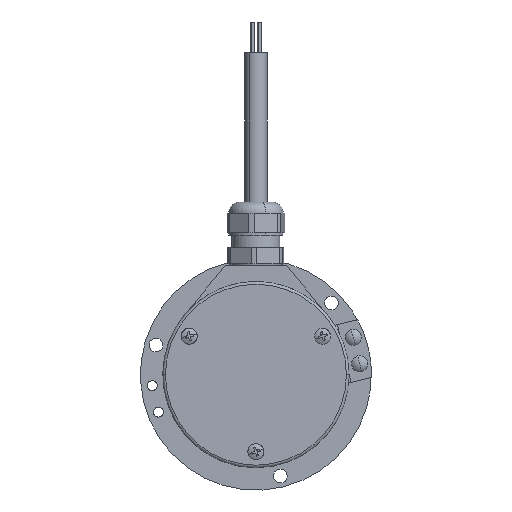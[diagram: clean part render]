
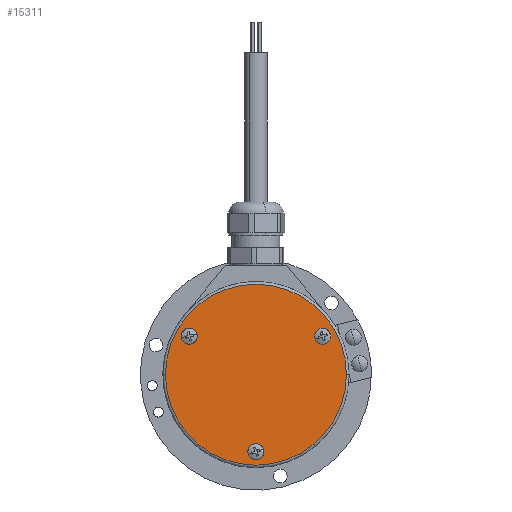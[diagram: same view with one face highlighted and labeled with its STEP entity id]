
A CAD part, left-side view. The second image highlights one B-rep face of the part: STEP entity #15311.
In plain terms, the highlighted planar face has unit normal (-1, 0, 0).
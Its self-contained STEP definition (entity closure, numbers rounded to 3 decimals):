
#8754 = AXIS2_PLACEMENT_3D ( 'NONE', #8796, #8795, #8794 ) ;
#8755 = PLANE ( 'NONE',  #8754 ) ;
#8791 = CARTESIAN_POINT ( 'NONE',  ( -4., 18.285, 12. ) ) ;
#8794 = DIRECTION ( 'NONE',  ( 0., -1., 0. ) ) ;
#8795 = DIRECTION ( 'NONE',  ( 1., 0., 0. ) ) ;
#8796 = CARTESIAN_POINT ( 'NONE',  ( -4., 0., 0. ) ) ;
#8797 = DIRECTION ( 'NONE',  ( 0., 1., 0. ) ) ;
#8798 = DIRECTION ( 'NONE',  ( -1., 0., 0. ) ) ;
#8799 = CARTESIAN_POINT ( 'NONE',  ( -4., -20.785, 12. ) ) ;
#8800 = AXIS2_PLACEMENT_3D ( 'NONE', #8799, #8798, #8797 ) ;
#8808 = CIRCLE ( 'NONE', #8800, 2.5 ) ;
#8927 = CARTESIAN_POINT ( 'NONE',  ( -4., -18.285, 12. ) ) ;
#8929 = CARTESIAN_POINT ( 'NONE',  ( -4., -23.285, 12. ) ) ;
#8945 = DIRECTION ( 'NONE',  ( -1., 0., 0. ) ) ;
#8946 = CARTESIAN_POINT ( 'NONE',  ( -4., -20.785, 12. ) ) ;
#8947 = AXIS2_PLACEMENT_3D ( 'NONE', #8946, #8945, #8953 ) ;
#8948 = CIRCLE ( 'NONE', #8947, 2.5 ) ;
#8953 = DIRECTION ( 'NONE',  ( 0., 1., 0. ) ) ;
#9087 = AXIS2_PLACEMENT_3D ( 'NONE', #9091, #9092, #9088 ) ;
#9088 = DIRECTION ( 'NONE',  ( 0., -1., 0. ) ) ;
#9089 = CIRCLE ( 'NONE', #9087, 28.2 ) ;
#9090 = CARTESIAN_POINT ( 'NONE',  ( -4., 28.2, 0. ) ) ;
#9091 = CARTESIAN_POINT ( 'NONE',  ( -4., 0., 0. ) ) ;
#9092 = DIRECTION ( 'NONE',  ( -1., 0., 0. ) ) ;
#9093 = CARTESIAN_POINT ( 'NONE',  ( -4., -28.2, 0. ) ) ;
#9155 = FACE_OUTER_BOUND ( 'NONE', #15466, .T. ) ;
#9156 = FACE_BOUND ( 'NONE', #15473, .T. ) ;
#9157 = FACE_BOUND ( 'NONE', #15312, .T. ) ;
#9160 = FACE_BOUND ( 'NONE', #15545, .T. ) ;
#9266 = CIRCLE ( 'NONE', #9282, 2.5 ) ;
#9268 = CARTESIAN_POINT ( 'NONE',  ( -4., 0., -24. ) ) ;
#9272 = CARTESIAN_POINT ( 'NONE',  ( -4., -2.5, -24. ) ) ;
#9273 = CARTESIAN_POINT ( 'NONE',  ( -4., 2.5, -24. ) ) ;
#9274 = DIRECTION ( 'NONE',  ( 0., 1., 0. ) ) ;
#9282 = AXIS2_PLACEMENT_3D ( 'NONE', #9268, #9285, #9274 ) ;
#9285 = DIRECTION ( 'NONE',  ( -1., 0., 0. ) ) ;
#15124 = VERTEX_POINT ( 'NONE', #8791 ) ;
#15126 = EDGE_CURVE ( 'NONE', #15197, #15191, #8808, .T. ) ;
#15191 = VERTEX_POINT ( 'NONE', #8929 ) ;
#15196 = EDGE_CURVE ( 'NONE', #15191, #15197, #8948, .T. ) ;
#15197 = VERTEX_POINT ( 'NONE', #8927 ) ;
#15274 = EDGE_CURVE ( 'NONE', #15275, #15276, #9089, .T. ) ;
#15275 = VERTEX_POINT ( 'NONE', #9090 ) ;
#15276 = VERTEX_POINT ( 'NONE', #9093 ) ;
#15311 = ADVANCED_FACE ( 'NONE', ( #9157, #9160, #9156, #9155 ), #8755, .F. ) ;
#15312 = EDGE_LOOP ( 'NONE', ( #15313, #15469 ) ) ;
#15313 = ORIENTED_EDGE ( 'NONE', *, *, #15126, .F. ) ;
#15382 = VERTEX_POINT ( 'NONE', #9272 ) ;
#15384 = EDGE_CURVE ( 'NONE', #15382, #15385, #9266, .T. ) ;
#15385 = VERTEX_POINT ( 'NONE', #9273 ) ;
#15453 = ORIENTED_EDGE ( 'NONE', *, *, #15274, .T. ) ;
#15464 = EDGE_CURVE ( 'NONE', #15385, #15382, #17641, .T. ) ;
#15465 = ORIENTED_EDGE ( 'NONE', *, *, #15384, .F. ) ;
#15466 = EDGE_LOOP ( 'NONE', ( #15467, #15453 ) ) ;
#15467 = ORIENTED_EDGE ( 'NONE', *, *, #15468, .T. ) ;
#15468 = EDGE_CURVE ( 'NONE', #15276, #15275, #17650, .T. ) ;
#15469 = ORIENTED_EDGE ( 'NONE', *, *, #15196, .F. ) ;
#15470 = ORIENTED_EDGE ( 'NONE', *, *, #15471, .F. ) ;
#15471 = EDGE_CURVE ( 'NONE', #15526, #15124, #17690, .T. ) ;
#15472 = ORIENTED_EDGE ( 'NONE', *, *, #15525, .F. ) ;
#15473 = EDGE_LOOP ( 'NONE', ( #15474, #15465 ) ) ;
#15474 = ORIENTED_EDGE ( 'NONE', *, *, #15464, .F. ) ;
#15525 = EDGE_CURVE ( 'NONE', #15124, #15526, #17795, .T. ) ;
#15526 = VERTEX_POINT ( 'NONE', #17797 ) ;
#15545 = EDGE_LOOP ( 'NONE', ( #15470, #15472 ) ) ;
#17640 = CARTESIAN_POINT ( 'NONE',  ( -4., 0., -24. ) ) ;
#17641 = CIRCLE ( 'NONE', #17666, 2.5 ) ;
#17646 = DIRECTION ( 'NONE',  ( 0., -1., 0. ) ) ;
#17647 = DIRECTION ( 'NONE',  ( -1., 0., 0. ) ) ;
#17648 = CARTESIAN_POINT ( 'NONE',  ( -4., 0., 0. ) ) ;
#17649 = AXIS2_PLACEMENT_3D ( 'NONE', #17648, #17647, #17646 ) ;
#17650 = CIRCLE ( 'NONE', #17649, 28.2 ) ;
#17664 = DIRECTION ( 'NONE',  ( 0., 1., 0. ) ) ;
#17665 = DIRECTION ( 'NONE',  ( -1., 0., 0. ) ) ;
#17666 = AXIS2_PLACEMENT_3D ( 'NONE', #17640, #17665, #17664 ) ;
#17690 = CIRCLE ( 'NONE', #17700, 2.5 ) ;
#17691 = DIRECTION ( 'NONE',  ( -1., 0., 0. ) ) ;
#17694 = DIRECTION ( 'NONE',  ( 0., 1., 0. ) ) ;
#17699 = CARTESIAN_POINT ( 'NONE',  ( -4., 20.785, 12. ) ) ;
#17700 = AXIS2_PLACEMENT_3D ( 'NONE', #17699, #17691, #17694 ) ;
#17793 = DIRECTION ( 'NONE',  ( 0., 1., 0. ) ) ;
#17794 = AXIS2_PLACEMENT_3D ( 'NONE', #17796, #17798, #17793 ) ;
#17795 = CIRCLE ( 'NONE', #17794, 2.5 ) ;
#17796 = CARTESIAN_POINT ( 'NONE',  ( -4., 20.785, 12. ) ) ;
#17797 = CARTESIAN_POINT ( 'NONE',  ( -4., 23.285, 12. ) ) ;
#17798 = DIRECTION ( 'NONE',  ( -1., 0., 0. ) ) ;
